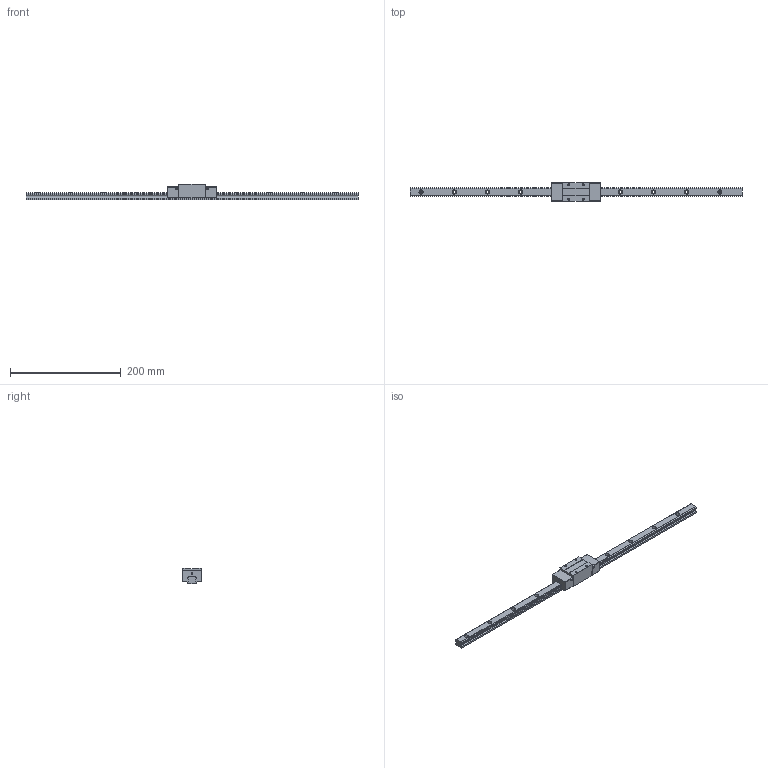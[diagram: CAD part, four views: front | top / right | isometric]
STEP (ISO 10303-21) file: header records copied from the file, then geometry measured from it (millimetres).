
FILE_DESCRIPTION (( 'STEP AP203' ), '1' );
FILE_NAME ('TRH15VL-DZ.STEP', '2024-07-11T06:08:17', ( '' ), ( '' ), 'SwSTEP 2.0', 'SolidWorks 2022', '' );
FILE_SCHEMA (( 'CONFIG_CONTROL_DESIGN' ));
Length unit declared in the file: millimetre
Products named in the file (1): TRH15VL-DZ
Bounding box: 600 x 34 x 28 mm (x, y, z)
Volume: 156380.9 mm3; surface area: 51016.9 mm2
Topology: 2 solids, 2 shells, 200 faces, 520 edges, 336 vertices
Faces by surface type: cylinder 96, plane 88, cone 16
Entity records: 6223 total; most frequent: DIRECTION 1114, CARTESIAN_POINT 1049, ORIENTED_EDGE 1024, EDGE_CURVE 512, AXIS2_PLACEMENT_3D 401, VERTEX_POINT 336, VECTOR 312, LINE 312
